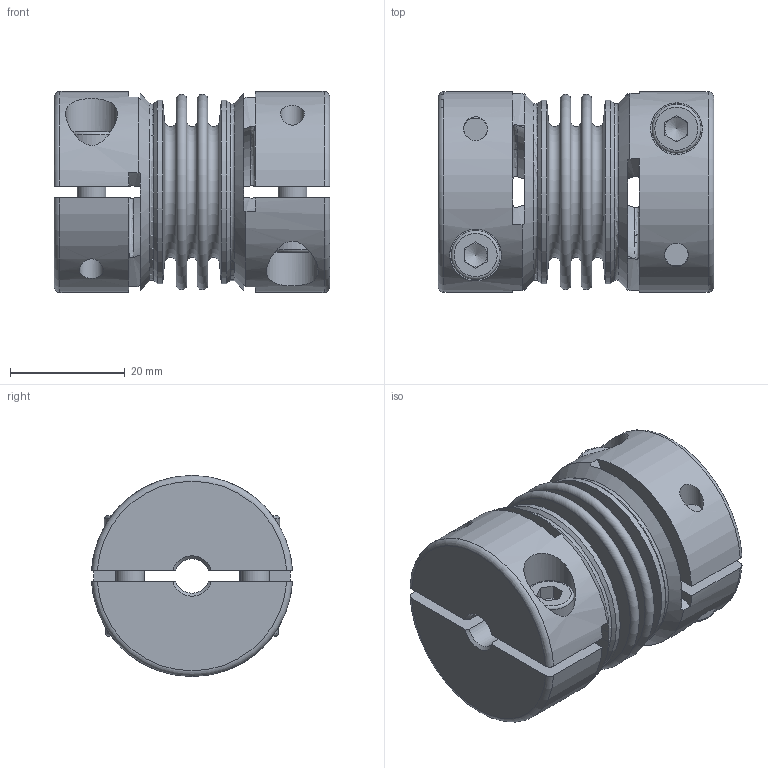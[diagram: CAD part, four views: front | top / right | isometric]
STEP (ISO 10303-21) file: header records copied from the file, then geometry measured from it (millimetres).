
FILE_DESCRIPTION(/* description */ ('Unknown','CAx-IF Rec.Pracs.---Representation and Presentation of Product Manufacturing Information (PMI)---4.0---2014-10-13','CAx-IF Rec.Pracs.---3D Tessellated Geometry---0.4---2014-09-14','2;1'),/* implementation_level */ '2;1');
FILE_NAME(/* name */ 'KG-HS 10 - 2W',/* time_stamp */ '2022-11-25T11:33:46+01:00',/* author */ ('Unknown'),/* organization */ ('Unknown'),/* preprocessor_version */ 'ST-DEVELOPER v18.102',/* originating_system */ 'Solid Edge',/* authorisation */ 'Unknown');
FILE_SCHEMA (('AP242_MANAGED_MODEL_BASED_3D_ENGINEERING_MIM_LF { 1 0 10303 442 1 1 4 }'));
Length unit declared in the file: millimetre
Products named in the file (1): 04824561
Bounding box: 47.96 x 34.94 x 35 mm (x, y, z)
Volume: 26623.6 mm3; surface area: 19524 mm2
Topology: 1 solids, 1 shells, 206 faces, 516 edges, 334 vertices
Faces by surface type: plane 118, cylinder 40, torus 26, cone 22
Full cylindrical faces by diameter (mm): 4.134 x4, 5 x4, 5.4 x2, 8.5 x4, 9 x4, 31.2 x2, 32 x2
Entity records: 7714 total; most frequent: CARTESIAN_POINT 1640, DIRECTION 964, ORIENTED_EDGE 880, EDGE_CURVE 440, AXIS2_PLACEMENT_3D 394, VERTEX_POINT 314, FACE_BOUND 294, EDGE_LOOP 290
